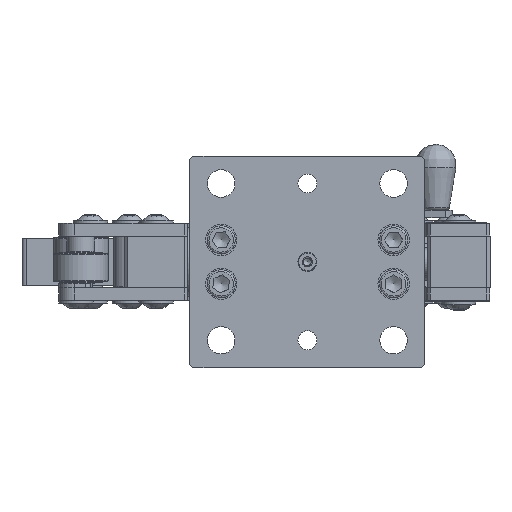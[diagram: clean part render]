
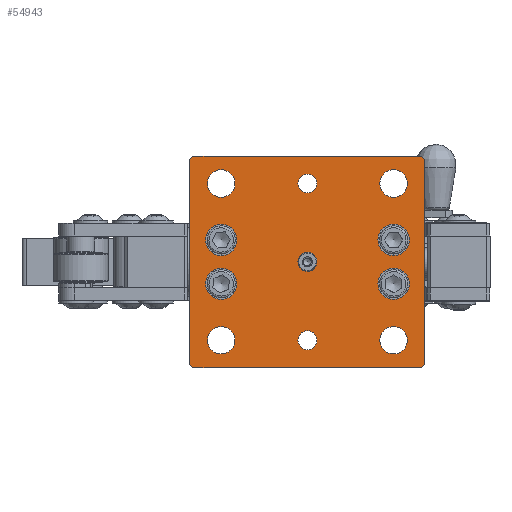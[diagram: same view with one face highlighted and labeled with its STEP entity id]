
A CAD part, left-side view. The second image highlights one B-rep face of the part: STEP entity #54943.
In plain terms, the highlighted planar face has unit normal (-1, 0, 0) as drawn and (0, 0, -1) by its records, which use the part's own axes.
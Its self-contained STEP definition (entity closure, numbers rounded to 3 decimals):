
#5526=FACE_BOUND('',#13466,.T.);
#5527=FACE_BOUND('',#13467,.T.);
#5528=FACE_BOUND('',#13468,.T.);
#5529=FACE_BOUND('',#13469,.T.);
#5530=FACE_BOUND('',#13470,.T.);
#5531=FACE_BOUND('',#13471,.T.);
#5532=FACE_BOUND('',#13472,.T.);
#5533=FACE_BOUND('',#13473,.T.);
#5534=FACE_BOUND('',#13474,.T.);
#5535=FACE_BOUND('',#13475,.T.);
#5536=FACE_BOUND('',#13476,.T.);
#7252=PLANE('',#57627);
#10020=FACE_OUTER_BOUND('',#13465,.T.);
#13465=EDGE_LOOP('',(#50767,#50768,#50769,#50770,#50771,#50772,#50773,#50774));
#13466=EDGE_LOOP('',(#50775));
#13467=EDGE_LOOP('',(#50776));
#13468=EDGE_LOOP('',(#50777));
#13469=EDGE_LOOP('',(#50778));
#13470=EDGE_LOOP('',(#50779));
#13471=EDGE_LOOP('',(#50780));
#13472=EDGE_LOOP('',(#50781));
#13473=EDGE_LOOP('',(#50782));
#13474=EDGE_LOOP('',(#50783));
#13475=EDGE_LOOP('',(#50784));
#13476=EDGE_LOOP('',(#50785));
#18650=LINE('',#95229,#23729);
#18657=LINE('',#95241,#23736);
#18663=LINE('',#95253,#23742);
#18665=LINE('',#95257,#23744);
#18667=LINE('',#95263,#23746);
#18669=LINE('',#95267,#23748);
#18674=LINE('',#95275,#23753);
#18677=LINE('',#95326,#23756);
#23729=VECTOR('',#67344,2.828);
#23736=VECTOR('',#67353,131.);
#23742=VECTOR('',#67363,2.828);
#23744=VECTOR('',#67367,146.);
#23746=VECTOR('',#67373,2.828);
#23748=VECTOR('',#67377,131.);
#23753=VECTOR('',#67384,2.828);
#23756=VECTOR('',#67451,146.);
#24474=CIRCLE('',#57553,6.05);
#24476=CIRCLE('',#57556,6.05);
#24478=CIRCLE('',#57559,6.05);
#24481=CIRCLE('',#57565,8.75);
#24485=CIRCLE('',#57572,8.75);
#24489=CIRCLE('',#57579,8.75);
#24492=CIRCLE('',#57585,8.75);
#24499=CIRCLE('',#57606,10.);
#24502=CIRCLE('',#57612,10.);
#24505=CIRCLE('',#57618,10.);
#24508=CIRCLE('',#57624,10.);
#29190=VERTEX_POINT('',#95170);
#29192=VERTEX_POINT('',#95175);
#29194=VERTEX_POINT('',#95180);
#29197=VERTEX_POINT('',#95189);
#29201=VERTEX_POINT('',#95200);
#29205=VERTEX_POINT('',#95211);
#29208=VERTEX_POINT('',#95220);
#29211=VERTEX_POINT('',#95226);
#29212=VERTEX_POINT('',#95228);
#29216=VERTEX_POINT('',#95239);
#29220=VERTEX_POINT('',#95251);
#29221=VERTEX_POINT('',#95255);
#29222=VERTEX_POINT('',#95260);
#29223=VERTEX_POINT('',#95262);
#29224=VERTEX_POINT('',#95266);
#29233=VERTEX_POINT('',#95295);
#29236=VERTEX_POINT('',#95304);
#29239=VERTEX_POINT('',#95313);
#29242=VERTEX_POINT('',#95322);
#36449=EDGE_CURVE('',#29190,#29190,#24474,.T.);
#36451=EDGE_CURVE('',#29192,#29192,#24476,.T.);
#36453=EDGE_CURVE('',#29194,#29194,#24478,.T.);
#36456=EDGE_CURVE('',#29197,#29197,#24481,.T.);
#36460=EDGE_CURVE('',#29201,#29201,#24485,.T.);
#36464=EDGE_CURVE('',#29205,#29205,#24489,.T.);
#36467=EDGE_CURVE('',#29208,#29208,#24492,.T.);
#36470=EDGE_CURVE('',#29211,#29212,#18650,.T.);
#36477=EDGE_CURVE('',#29211,#29216,#18657,.T.);
#36483=EDGE_CURVE('',#29220,#29216,#18663,.T.);
#36485=EDGE_CURVE('',#29220,#29221,#18665,.T.);
#36487=EDGE_CURVE('',#29222,#29223,#18667,.T.);
#36489=EDGE_CURVE('',#29224,#29223,#18669,.T.);
#36494=EDGE_CURVE('',#29224,#29221,#18674,.T.);
#36503=EDGE_CURVE('',#29233,#29233,#24499,.T.);
#36506=EDGE_CURVE('',#29236,#29236,#24502,.T.);
#36509=EDGE_CURVE('',#29239,#29239,#24505,.T.);
#36512=EDGE_CURVE('',#29242,#29242,#24508,.T.);
#36513=EDGE_CURVE('',#29222,#29212,#18677,.T.);
#50767=ORIENTED_EDGE('',*,*,#36470,.F.);
#50768=ORIENTED_EDGE('',*,*,#36477,.T.);
#50769=ORIENTED_EDGE('',*,*,#36483,.F.);
#50770=ORIENTED_EDGE('',*,*,#36485,.T.);
#50771=ORIENTED_EDGE('',*,*,#36494,.F.);
#50772=ORIENTED_EDGE('',*,*,#36489,.T.);
#50773=ORIENTED_EDGE('',*,*,#36487,.F.);
#50774=ORIENTED_EDGE('',*,*,#36513,.T.);
#50775=ORIENTED_EDGE('',*,*,#36449,.T.);
#50776=ORIENTED_EDGE('',*,*,#36451,.T.);
#50777=ORIENTED_EDGE('',*,*,#36453,.T.);
#50778=ORIENTED_EDGE('',*,*,#36456,.T.);
#50779=ORIENTED_EDGE('',*,*,#36460,.T.);
#50780=ORIENTED_EDGE('',*,*,#36464,.T.);
#50781=ORIENTED_EDGE('',*,*,#36467,.T.);
#50782=ORIENTED_EDGE('',*,*,#36503,.T.);
#50783=ORIENTED_EDGE('',*,*,#36506,.T.);
#50784=ORIENTED_EDGE('',*,*,#36509,.T.);
#50785=ORIENTED_EDGE('',*,*,#36512,.T.);
#54943=ADVANCED_FACE('',(#10020,#5526,#5527,#5528,#5529,#5530,#5531,#5532,
#5533,#5534,#5535,#5536),#7252,.F.);
#57553=AXIS2_PLACEMENT_3D('',#95171,#67274,#67275);
#57556=AXIS2_PLACEMENT_3D('',#95176,#67280,#67281);
#57559=AXIS2_PLACEMENT_3D('',#95181,#67286,#67287);
#57565=AXIS2_PLACEMENT_3D('',#95190,#67298,#67299);
#57572=AXIS2_PLACEMENT_3D('',#95201,#67312,#67313);
#57579=AXIS2_PLACEMENT_3D('',#95212,#67326,#67327);
#57585=AXIS2_PLACEMENT_3D('',#95221,#67338,#67339);
#57606=AXIS2_PLACEMENT_3D('',#95296,#67409,#67410);
#57612=AXIS2_PLACEMENT_3D('',#95305,#67421,#67422);
#57618=AXIS2_PLACEMENT_3D('',#95314,#67433,#67434);
#57624=AXIS2_PLACEMENT_3D('',#95323,#67445,#67446);
#57627=AXIS2_PLACEMENT_3D('',#95327,#67452,#67453);
#67274=DIRECTION('center_axis',(0.,0.,1.));
#67275=DIRECTION('ref_axis',(1.,0.,0.));
#67280=DIRECTION('center_axis',(0.,0.,1.));
#67281=DIRECTION('ref_axis',(1.,0.,0.));
#67286=DIRECTION('center_axis',(0.,0.,1.));
#67287=DIRECTION('ref_axis',(1.,0.,0.));
#67298=DIRECTION('center_axis',(0.,0.,1.));
#67299=DIRECTION('ref_axis',(1.,0.,0.));
#67312=DIRECTION('center_axis',(0.,0.,1.));
#67313=DIRECTION('ref_axis',(1.,0.,0.));
#67326=DIRECTION('center_axis',(0.,0.,1.));
#67327=DIRECTION('ref_axis',(1.,0.,0.));
#67338=DIRECTION('center_axis',(0.,0.,1.));
#67339=DIRECTION('ref_axis',(1.,0.,0.));
#67344=DIRECTION('',(-0.707,-0.707,0.));
#67353=DIRECTION('',(1.,0.,0.));
#67363=DIRECTION('',(-0.707,0.707,0.));
#67367=DIRECTION('',(0.,-1.,0.));
#67373=DIRECTION('',(0.707,-0.707,0.));
#67377=DIRECTION('',(-1.,0.,0.));
#67384=DIRECTION('',(0.707,0.707,0.));
#67409=DIRECTION('center_axis',(0.,0.,1.));
#67410=DIRECTION('ref_axis',(-1.,0.,0.));
#67421=DIRECTION('center_axis',(0.,0.,1.));
#67422=DIRECTION('ref_axis',(-1.,0.,0.));
#67433=DIRECTION('center_axis',(0.,0.,1.));
#67434=DIRECTION('ref_axis',(-1.,0.,0.));
#67445=DIRECTION('center_axis',(0.,0.,1.));
#67446=DIRECTION('ref_axis',(-1.,0.,0.));
#67451=DIRECTION('',(0.,1.,0.));
#67452=DIRECTION('center_axis',(0.,0.,1.));
#67453=DIRECTION('ref_axis',(1.,0.,0.));
#95170=CARTESIAN_POINT('',(-6.05,0.,0.));
#95171=CARTESIAN_POINT('Origin',(0.,0.,0.));
#95175=CARTESIAN_POINT('',(-56.05,0.,0.));
#95176=CARTESIAN_POINT('Origin',(-50.,0.,0.));
#95180=CARTESIAN_POINT('',(43.95,0.,0.));
#95181=CARTESIAN_POINT('Origin',(50.,0.,0.));
#95189=CARTESIAN_POINT('',(41.25,-55.,0.));
#95190=CARTESIAN_POINT('Origin',(50.,-55.,0.));
#95200=CARTESIAN_POINT('',(-58.75,55.,0.));
#95201=CARTESIAN_POINT('Origin',(-50.,55.,0.));
#95211=CARTESIAN_POINT('',(-58.75,-55.,0.));
#95212=CARTESIAN_POINT('Origin',(-50.,-55.,0.));
#95220=CARTESIAN_POINT('',(41.25,55.,0.));
#95221=CARTESIAN_POINT('Origin',(50.,55.,0.));
#95226=CARTESIAN_POINT('',(-65.5,75.,0.));
#95228=CARTESIAN_POINT('',(-67.5,73.,0.));
#95229=CARTESIAN_POINT('',(-68.375,72.125,0.));
#95239=CARTESIAN_POINT('',(65.5,75.,0.));
#95241=CARTESIAN_POINT('',(-67.5,75.,0.));
#95251=CARTESIAN_POINT('',(67.5,73.,0.));
#95253=CARTESIAN_POINT('',(68.375,72.125,0.));
#95255=CARTESIAN_POINT('',(67.5,-73.,0.));
#95257=CARTESIAN_POINT('',(67.5,75.,0.));
#95260=CARTESIAN_POINT('',(-67.5,-73.,0.));
#95262=CARTESIAN_POINT('',(-65.5,-75.,0.));
#95263=CARTESIAN_POINT('',(-68.375,-72.125,0.));
#95266=CARTESIAN_POINT('',(65.5,-75.,0.));
#95267=CARTESIAN_POINT('',(67.5,-75.,0.));
#95275=CARTESIAN_POINT('',(68.375,-72.125,0.));
#95295=CARTESIAN_POINT('',(-24.,-55.,0.));
#95296=CARTESIAN_POINT('Origin',(-14.,-55.,0.));
#95304=CARTESIAN_POINT('',(4.,55.,0.));
#95305=CARTESIAN_POINT('Origin',(14.,55.,0.));
#95313=CARTESIAN_POINT('',(4.,-55.,0.));
#95314=CARTESIAN_POINT('Origin',(14.,-55.,0.));
#95322=CARTESIAN_POINT('',(-24.,55.,0.));
#95323=CARTESIAN_POINT('Origin',(-14.,55.,0.));
#95326=CARTESIAN_POINT('',(-67.5,-75.,0.));
#95327=CARTESIAN_POINT('Origin',(0.,0.,0.));
